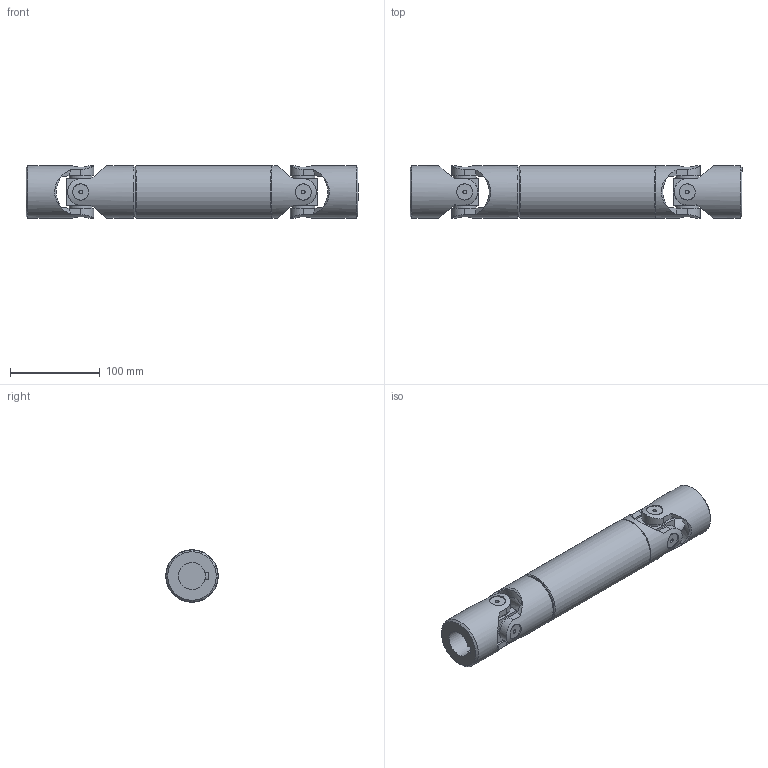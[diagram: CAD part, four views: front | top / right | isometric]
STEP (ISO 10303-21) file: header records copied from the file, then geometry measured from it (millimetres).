
FILE_DESCRIPTION(/* description */ (''),/* implementation_level */ '2;1');
FILE_NAME(/* name */ '\\SRV2016\Societa\Stefano\Disegni 3D\00Catalogo 3D\03Trasmissioni standard GA\6GA18\6GA18_SG0A3018.stp',/* time_stamp */ '2022-02-07T12:42:18+01:00',/* author */ ('acquisti'),/* organization */ (''),/* preprocessor_version */ 'ST-DEVELOPER v15.6',/* originating_system */ 'Autodesk Inventor 2015',/* authorisation */ '');
FILE_SCHEMA (('AUTOMOTIVE_DESIGN { 1 0 10303 214 3 1 1 }'));
Length unit declared in the file: millimetre
Products named in the file (5): 6GA18 LAI; 6GA18 LCI; 6G MOC; 6G SFE; 6GA18_SG0A3018
Assembly tree (6 placements, depth 2):
  6GA18_SG0A3018
    6GA18 LAI
    6GA18 LCI
    6G MOC  x2
    6G SFE  x2
Bounding box: 370 x 58.5 x 58.5 mm (x, y, z)
Volume: 708393.3 mm3; surface area: 151436.7 mm2
Topology: 6 solids, 6 shells, 220 faces, 561 edges, 377 vertices
Faces by surface type: plane 114, cylinder 77, cone 25, torus 4
Full cylindrical faces by diameter (mm): 4 x8, 18 x8, 26 x8, 30 x1, 32 x2, 49 x1, 58 x4, 58.5 x1
Entity records: 5899 total; most frequent: CARTESIAN_POINT 1695, DIRECTION 847, ORIENTED_EDGE 832, EDGE_CURVE 416, AXIS2_PLACEMENT_3D 331, VERTEX_POINT 300, EDGE_LOOP 228, LINE 185
